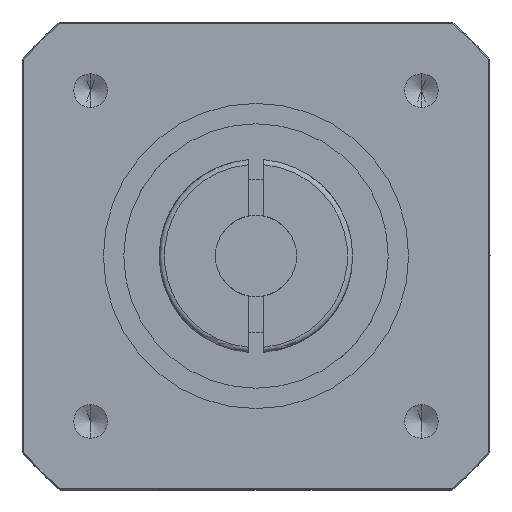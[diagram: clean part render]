
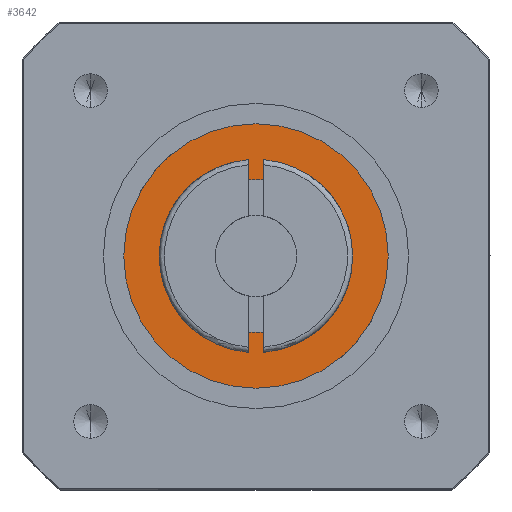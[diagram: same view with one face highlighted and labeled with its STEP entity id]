
A CAD part, front view. The second image highlights one B-rep face of the part: STEP entity #3642.
In plain terms, the highlighted planar face has unit normal (0, -1, 0).
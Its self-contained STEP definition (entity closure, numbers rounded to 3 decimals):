
#129 = AXIS2_PLACEMENT_3D ( 'NONE', #676, #685, #686 ) ;
#431 = AXIS2_PLACEMENT_3D ( 'NONE', #2441, #2440, #2439 ) ;
#432 = AXIS2_PLACEMENT_3D ( 'NONE', #2447, #2445, #2444 ) ;
#449 = AXIS2_PLACEMENT_3D ( 'NONE', #4760, #4843, #4774 ) ;
#452 = AXIS2_PLACEMENT_3D ( 'NONE', #4778, #4726, #4804 ) ;
#489 = EDGE_CURVE ( 'NONE', #1876, #1854, #2706, .T. ) ;
#502 = EDGE_CURVE ( 'NONE', #1875, #1853, #2727, .T. ) ;
#676 = CARTESIAN_POINT ( 'NONE',  ( 0., -45., 0. ) ) ;
#680 = PLANE ( 'NONE',  #129 ) ;
#685 = DIRECTION ( 'NONE',  ( 0., -1., 0. ) ) ;
#686 = DIRECTION ( 'NONE',  ( 0., 0., -1. ) ) ;
#1364 = EDGE_LOOP ( 'NONE', ( #3750, #3751 ) ) ;
#1381 = EDGE_LOOP ( 'NONE', ( #3752, #3753 ) ) ;
#1853 = VERTEX_POINT ( 'NONE', #4436 ) ;
#1854 = VERTEX_POINT ( 'NONE', #4434 ) ;
#1875 = VERTEX_POINT ( 'NONE', #4406 ) ;
#1876 = VERTEX_POINT ( 'NONE', #4405 ) ;
#2050 = EDGE_CURVE ( 'NONE', #1854, #1876, #2792, .T. ) ;
#2051 = EDGE_CURVE ( 'NONE', #1853, #1875, #2796, .T. ) ;
#2439 = DIRECTION ( 'NONE',  ( 0., 0., 1. ) ) ;
#2440 = DIRECTION ( 'NONE',  ( 0., 1., 0. ) ) ;
#2441 = CARTESIAN_POINT ( 'NONE',  ( 0., -45., 0. ) ) ;
#2444 = DIRECTION ( 'NONE',  ( 0., 0., -1. ) ) ;
#2445 = DIRECTION ( 'NONE',  ( 0., -1., 0. ) ) ;
#2447 = CARTESIAN_POINT ( 'NONE',  ( 0., -45., 0. ) ) ;
#2706 = CIRCLE ( 'NONE', #452, 13. ) ;
#2727 = CIRCLE ( 'NONE', #449, 7.5 ) ;
#2792 = CIRCLE ( 'NONE', #432, 13. ) ;
#2796 = CIRCLE ( 'NONE', #431, 7.5 ) ;
#3199 = FACE_OUTER_BOUND ( 'NONE', #1364, .T. ) ;
#3206 = FACE_BOUND ( 'NONE', #1381, .T. ) ;
#3642 = ADVANCED_FACE ( 'NONE', ( #3199, #3206 ), #680, .T. ) ;
#3750 = ORIENTED_EDGE ( 'NONE', *, *, #2050, .T. ) ;
#3751 = ORIENTED_EDGE ( 'NONE', *, *, #489, .T. ) ;
#3752 = ORIENTED_EDGE ( 'NONE', *, *, #502, .T. ) ;
#3753 = ORIENTED_EDGE ( 'NONE', *, *, #2051, .T. ) ;
#4405 = CARTESIAN_POINT ( 'NONE',  ( 0., -45., 13. ) ) ;
#4406 = CARTESIAN_POINT ( 'NONE',  ( 0., -45., 7.5 ) ) ;
#4434 = CARTESIAN_POINT ( 'NONE',  ( 0., -45., -13. ) ) ;
#4436 = CARTESIAN_POINT ( 'NONE',  ( 0., -45., -7.5 ) ) ;
#4726 = DIRECTION ( 'NONE',  ( 0., -1., 0. ) ) ;
#4760 = CARTESIAN_POINT ( 'NONE',  ( 0., -45., 0. ) ) ;
#4774 = DIRECTION ( 'NONE',  ( 0., 0., 1. ) ) ;
#4778 = CARTESIAN_POINT ( 'NONE',  ( 0., -45., 0. ) ) ;
#4804 = DIRECTION ( 'NONE',  ( 0., 0., -1. ) ) ;
#4843 = DIRECTION ( 'NONE',  ( 0., 1., 0. ) ) ;
